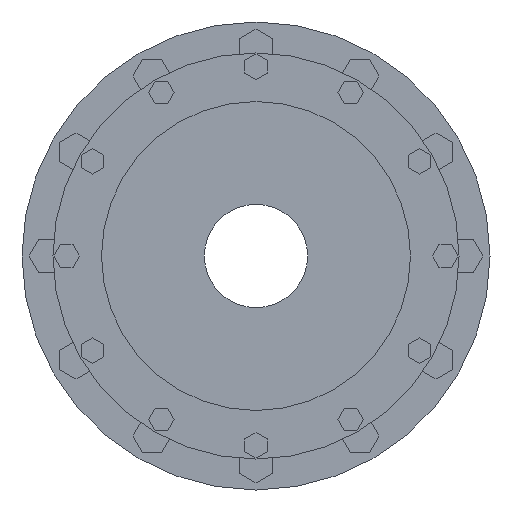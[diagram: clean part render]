
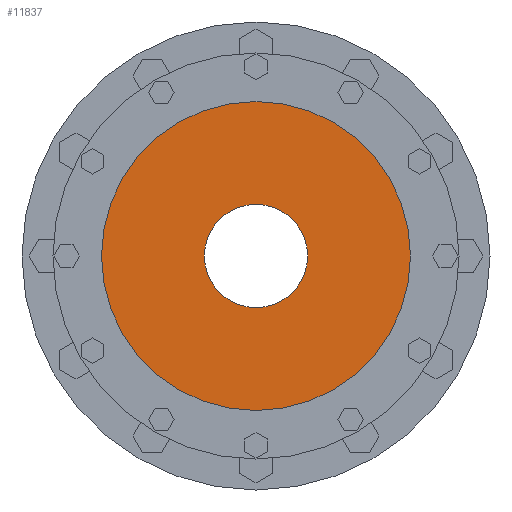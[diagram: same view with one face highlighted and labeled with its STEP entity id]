
A CAD part, left-side view. The second image highlights one B-rep face of the part: STEP entity #11837.
In plain terms, the highlighted planar face has unit normal (-1, 0, 0) as drawn and (1, 0, 0) by its records, which use the part's own axes.
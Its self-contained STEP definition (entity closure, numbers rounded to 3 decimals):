
#11661=CARTESIAN_POINT('',(-5.,0.,0.));
#11662=DIRECTION('',(1.,0.,0.));
#11663=DIRECTION('',(0.,1.,0.));
#11664=AXIS2_PLACEMENT_3D('',#11661,#11662,#11663);
#11671=CARTESIAN_POINT('',(-5.,0.,0.));
#11672=DIRECTION('',(-1.,0.,0.));
#11673=DIRECTION('',(0.,1.,0.));
#11674=AXIS2_PLACEMENT_3D('',#11671,#11672,#11673);
#11676=CARTESIAN_POINT('',(-5.,0.,0.));
#11677=DIRECTION('',(1.,0.,0.));
#11678=DIRECTION('',(0.,1.,0.));
#11679=AXIS2_PLACEMENT_3D('',#11676,#11677,#11678);
#11755=CARTESIAN_POINT('',(-5.,0.,0.));
#11756=DIRECTION('',(1.,0.,0.));
#11757=DIRECTION('',(0.,-1.,0.));
#11758=AXIS2_PLACEMENT_3D('',#11755,#11756,#11757);
#11782=CARTESIAN_POINT('',(-5.,112.25,0.));
#11784=VERTEX_POINT('',#11782);
#11786=CARTESIAN_POINT('',(-5.,-112.25,0.));
#11788=VERTEX_POINT('',#11786);
#11793=CARTESIAN_POINT('',(-5.,37.5,0.));
#11794=CARTESIAN_POINT('',(-5.,-37.5,0.));
#11795=VERTEX_POINT('',#11793);
#11796=VERTEX_POINT('',#11794);
#11821=CARTESIAN_POINT('',(-5.,0.,0.));
#11822=DIRECTION('',(1.,0.,0.));
#11823=DIRECTION('',(0.,-1.,0.));
#11824=AXIS2_PLACEMENT_3D('',#11821,#11822,#11823);
#11825=PLANE('',#11824);
#11827=ORIENTED_EDGE('',*,*,#11826,.T.);
#11829=ORIENTED_EDGE('',*,*,#11828,.F.);
#11830=EDGE_LOOP('',(#11827,#11829));
#11831=FACE_OUTER_BOUND('',#11830,.F.);
#11832=ORIENTED_EDGE('',*,*,#11810,.T.);
#11834=ORIENTED_EDGE('',*,*,#11833,.T.);
#11835=EDGE_LOOP('',(#11832,#11834));
#11836=FACE_BOUND('',#11835,.F.);
#11837=ADVANCED_FACE('',(#11831,#11836),#11825,.T.);
#11665=CIRCLE('',#11664,37.5);
#11675=CIRCLE('',#11674,112.25);
#11680=CIRCLE('',#11679,112.25);
#11759=CIRCLE('',#11758,37.5);
#11810=EDGE_CURVE('',#11795,#11796,#11665,.T.);
#11826=EDGE_CURVE('',#11784,#11788,#11675,.T.);
#11828=EDGE_CURVE('',#11784,#11788,#11680,.T.);
#11833=EDGE_CURVE('',#11796,#11795,#11759,.T.);
